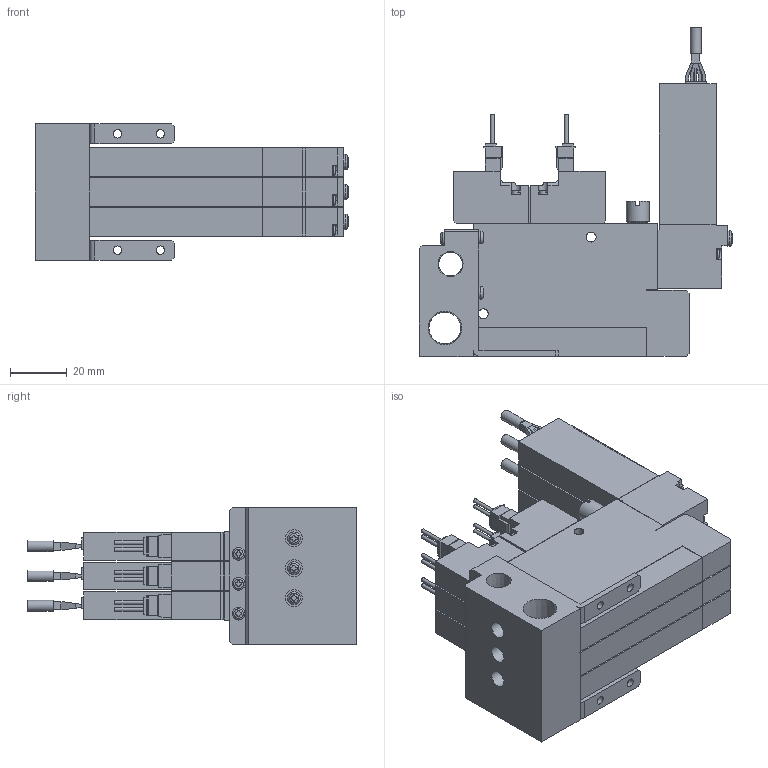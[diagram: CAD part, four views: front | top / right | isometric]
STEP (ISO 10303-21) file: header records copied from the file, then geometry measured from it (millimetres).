
FILE_DESCRIPTION(('STEP AP203'),'1');
FILE_NAME('V9C5SC303_3D.stp','2024-09-04T09:43:04',(' '),(' '),'Spatial InterOp 3D',' ',' ');
FILE_SCHEMA(('CONFIG_CONTROL_DESIGN'));
Length unit declared in the file: millimetre
Products named in the file (5): BSC1M※※V9C5SC303; Solenoid valve S; Pressure Sensor V9; Unit-C; BaseMC30R
Assembly tree (10 placements, depth 2):
  BSC1M※※V9C5SC303
    Solenoid valve S  x3
    Pressure Sensor V9  x3
    Unit-C  x3
    BaseMC30R
Bounding box: 110.35 x 115.8 x 48 mm (x, y, z)
Volume: 203517.1 mm3; surface area: 70944.1 mm2
Topology: 10 solids, 10 shells, 1338 faces, 3615 edges, 2382 vertices
Faces by surface type: plane 1025, cylinder 250, cone 25, sphere 19, torus 19
Full cylindrical faces by diameter (mm): 1.4 x12, 2.5 x6, 3 x16, 3.5 x24, 3.8 x3, 4 x3, 4.134 x6, 4.5 x10, 5.5 x6, 6 x3, 7 x6, 8 x3, 8.422 x1, 11.233 x1
Entity records: 18220 total; most frequent: CARTESIAN_POINT 3918, DIRECTION 2847, ORIENTED_EDGE 2808, EDGE_CURVE 1404, LINE 1013, VECTOR 1013, VERTEX_POINT 977, AXIS2_PLACEMENT_3D 917
